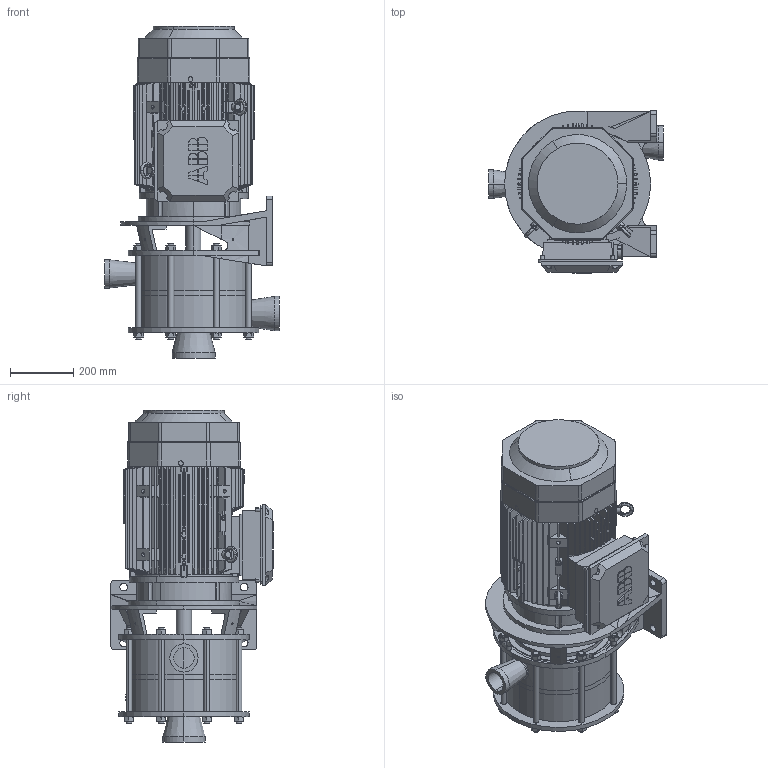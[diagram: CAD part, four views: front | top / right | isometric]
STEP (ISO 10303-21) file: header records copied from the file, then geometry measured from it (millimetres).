
FILE_DESCRIPTION((''),'2;1');
FILE_NAME('MJ80--180M frame.stp','2010-08-04T14:23:24',(''),(''),'AutoCAD STEP 2000i','AutoCAD 2000i',', , ');
FILE_SCHEMA(('CONFIG_CONTROL_DESIGN'));
Length unit declared in the file: millimetre
Products named in the file (6): MJ80--180M FRAME A; Motor; M3BP180ML; M3BP160MLB4 (long); AnyA; Any
Assembly tree (3 placements, depth 2):
  MJ80--180M FRAME A
    Motor
    M3BP180ML
    M3BP160MLB4 (long)
  AnyA
  Any
Bounding box: 550 x 510.71 x 1046.25 mm (x, y, z)
Volume: 90037110 mm3; surface area: 4767530.5 mm2
Topology: 20 solids, 116 shells, 2383 faces, 6416 edges, 4146 vertices
Faces by surface type: plane 953, bspline 549, cylinder 413, torus 384, cone 84
Entity records: 81683 total; most frequent: CARTESIAN_POINT 27212, ORIENTED_EDGE 12748, DIRECTION 9740, EDGE_CURVE 6374, VERTEX_POINT 4146, AXIS2_PLACEMENT_3D 3759, EDGE_LOOP 2580, FACE_OUTER_BOUND 2383
